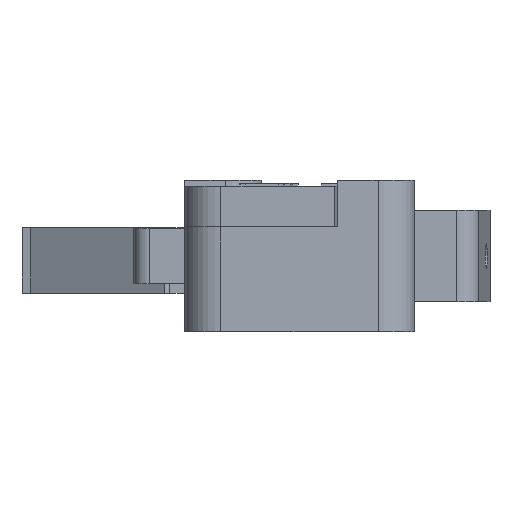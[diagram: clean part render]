
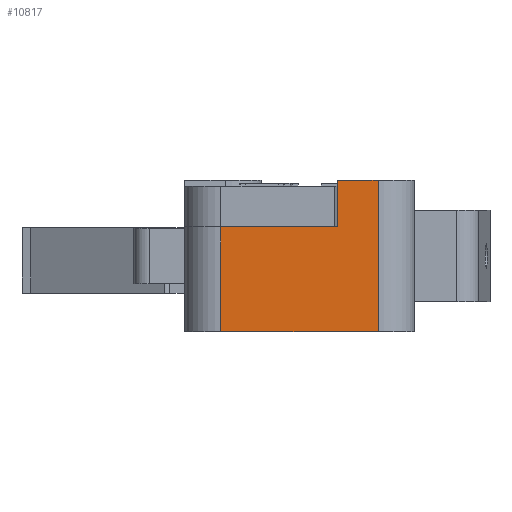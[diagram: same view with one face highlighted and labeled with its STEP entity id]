
A CAD part, left-side view. The second image highlights one B-rep face of the part: STEP entity #10817.
In plain terms, the highlighted planar face has unit normal (-1, 0, 0).
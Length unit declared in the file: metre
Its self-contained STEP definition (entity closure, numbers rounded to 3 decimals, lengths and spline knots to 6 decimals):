
#10477=CARTESIAN_POINT('',(-0.027238,-0.006323,0.022913));
#10478=VERTEX_POINT('',#10477);
#10481=CARTESIAN_POINT('',(-0.027238,-0.006323,0.030113));
#10482=DIRECTION('',(0.,0.,-1.));
#10483=VECTOR('',#10482,1.);
#10484=LINE('',#10481,#10483);
#10485=CARTESIAN_POINT('',(-0.027238,-0.006323,0.030113));
#10486=VERTEX_POINT('',#10485);
#10487=EDGE_CURVE('',#10486,#10478,#10484,.T.);
#10685=CARTESIAN_POINT('',(-0.027238,-0.017123,0.033313));
#10686=VERTEX_POINT('',#10685);
#10720=CARTESIAN_POINT('',(-0.027238,-0.014323,0.033313));
#10721=VERTEX_POINT('',#10720);
#10724=CARTESIAN_POINT('',(-0.027238,-0.014323,0.033313));
#10725=DIRECTION('',(0.,-1.,0.));
#10726=VECTOR('',#10725,1.);
#10727=LINE('',#10724,#10726);
#10728=EDGE_CURVE('',#10721,#10686,#10727,.T.);
#10757=CARTESIAN_POINT('',(-0.027238,-0.017123,0.022913));
#10758=VERTEX_POINT('',#10757);
#10770=CARTESIAN_POINT('',(-0.027238,-0.017123,0.033313));
#10771=DIRECTION('',(0.,0.,-1.));
#10772=VECTOR('',#10771,1.);
#10773=LINE('',#10770,#10772);
#10774=EDGE_CURVE('',#10686,#10758,#10773,.T.);
#10787=CARTESIAN_POINT('',(-0.027238,-0.014323,0.033313));
#10788=DIRECTION('',(1.,0.,0.));
#10789=DIRECTION('',(0.,1.,0.));
#10790=AXIS2_PLACEMENT_3D('',#10787,#10788,#10789);
#10791=PLANE('',#10790);
#10792=CARTESIAN_POINT('',(-0.027238,-0.014323,0.022913));
#10793=DIRECTION('',(0.,-1.,0.));
#10794=VECTOR('',#10793,1.);
#10795=LINE('',#10792,#10794);
#10796=EDGE_CURVE('',#10478,#10758,#10795,.T.);
#10797=ORIENTED_EDGE('',*,*,#10796,.T.);
#10798=ORIENTED_EDGE('',*,*,#10774,.F.);
#10799=ORIENTED_EDGE('',*,*,#10728,.F.);
#10800=CARTESIAN_POINT('',(-0.027238,-0.014323,0.033313));
#10801=DIRECTION('',(0.,0.,-1.));
#10802=VECTOR('',#10801,1.);
#10803=LINE('',#10800,#10802);
#10804=CARTESIAN_POINT('',(-0.027238,-0.014323,0.030113));
#10805=VERTEX_POINT('',#10804);
#10806=EDGE_CURVE('',#10721,#10805,#10803,.T.);
#10807=ORIENTED_EDGE('',*,*,#10806,.T.);
#10808=CARTESIAN_POINT('',(-0.027238,-0.011723,0.030113));
#10809=DIRECTION('',(0.,-1.,0.));
#10810=VECTOR('',#10809,1.);
#10811=LINE('',#10808,#10810);
#10812=EDGE_CURVE('',#10486,#10805,#10811,.T.);
#10813=ORIENTED_EDGE('',*,*,#10812,.F.);
#10814=ORIENTED_EDGE('',*,*,#10487,.T.);
#10815=EDGE_LOOP('',(#10797,#10798,#10799,#10807,#10813,#10814));
#10816=FACE_BOUND('',#10815,.T.);
#10817=ADVANCED_FACE('',(#10816),#10791,.F.);
